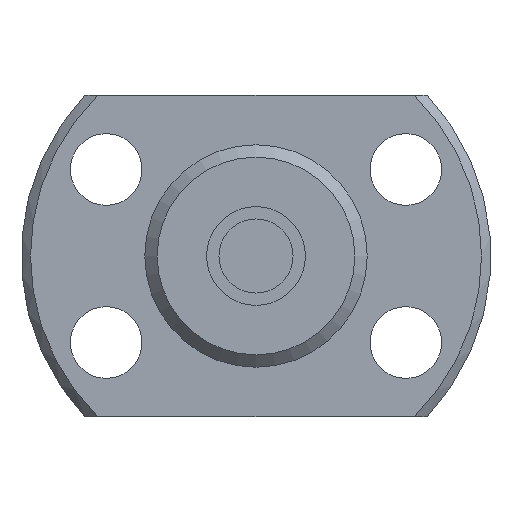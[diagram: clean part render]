
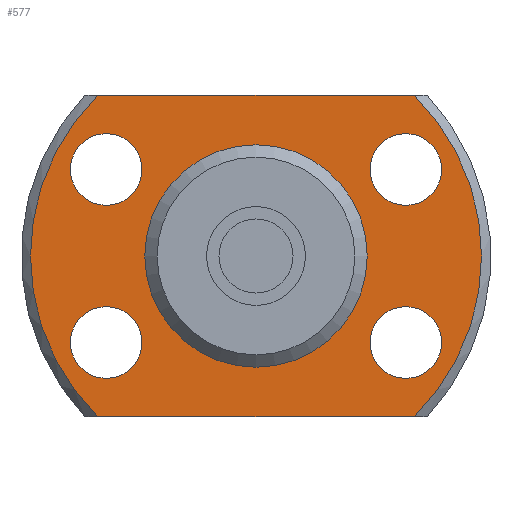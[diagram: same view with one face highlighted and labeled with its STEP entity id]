
A CAD part, left-side view. The second image highlights one B-rep face of the part: STEP entity #577.
In plain terms, the highlighted planar face has unit normal (-1, 0, 0) as drawn and (1, 0, 0) by its records, which use the part's own axes.
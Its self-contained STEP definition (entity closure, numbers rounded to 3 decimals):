
#72=LINE('',#1021,#88);
#73=LINE('',#1023,#89);
#88=VECTOR('',#844,1000.);
#89=VECTOR('',#845,1000.);
#177=ORIENTED_EDGE('',*,*,#273,.T.);
#178=ORIENTED_EDGE('',*,*,#251,.T.);
#179=ORIENTED_EDGE('',*,*,#274,.T.);
#180=ORIENTED_EDGE('',*,*,#275,.T.);
#181=ORIENTED_EDGE('',*,*,#276,.F.);
#182=ORIENTED_EDGE('',*,*,#277,.F.);
#183=ORIENTED_EDGE('',*,*,#278,.F.);
#184=ORIENTED_EDGE('',*,*,#279,.F.);
#185=ORIENTED_EDGE('',*,*,#272,.F.);
#251=EDGE_CURVE('',#310,#312,#359,.T.);
#272=EDGE_CURVE('',#331,#331,#374,.T.);
#273=EDGE_CURVE('',#332,#310,#72,.T.);
#274=EDGE_CURVE('',#312,#333,#73,.T.);
#275=EDGE_CURVE('',#333,#332,#375,.T.);
#276=EDGE_CURVE('',#334,#334,#376,.T.);
#277=EDGE_CURVE('',#335,#335,#377,.T.);
#278=EDGE_CURVE('',#336,#336,#378,.T.);
#279=EDGE_CURVE('',#337,#337,#379,.T.);
#310=VERTEX_POINT('',#956);
#312=VERTEX_POINT('',#963);
#331=VERTEX_POINT('',#1019);
#332=VERTEX_POINT('',#1022);
#333=VERTEX_POINT('',#1024);
#334=VERTEX_POINT('',#1027);
#335=VERTEX_POINT('',#1029);
#336=VERTEX_POINT('',#1031);
#337=VERTEX_POINT('',#1033);
#359=CIRCLE('',#654,9.125);
#374=CIRCLE('',#678,4.3);
#375=CIRCLE('',#680,9.125);
#376=CIRCLE('',#681,1.45);
#377=CIRCLE('',#682,1.45);
#378=CIRCLE('',#683,1.45);
#379=CIRCLE('',#684,1.45);
#436=EDGE_LOOP('',(#177,#178,#179,#180));
#437=EDGE_LOOP('',(#181));
#438=EDGE_LOOP('',(#182));
#439=EDGE_LOOP('',(#183));
#440=EDGE_LOOP('',(#184));
#441=EDGE_LOOP('',(#185));
#510=FACE_BOUND('',#436,.T.);
#511=FACE_BOUND('',#437,.T.);
#512=FACE_BOUND('',#438,.T.);
#513=FACE_BOUND('',#439,.T.);
#514=FACE_BOUND('',#440,.T.);
#515=FACE_BOUND('',#441,.T.);
#544=PLANE('',#679);
#577=ADVANCED_FACE('',(#510,#511,#512,#513,#514,#515),#544,.T.);
#654=AXIS2_PLACEMENT_3D('',#964,#788,#789);
#678=AXIS2_PLACEMENT_3D('',#1018,#840,#841);
#679=AXIS2_PLACEMENT_3D('',#1020,#842,#843);
#680=AXIS2_PLACEMENT_3D('',#1025,#846,#847);
#681=AXIS2_PLACEMENT_3D('',#1026,#848,#849);
#682=AXIS2_PLACEMENT_3D('',#1028,#850,#851);
#683=AXIS2_PLACEMENT_3D('',#1030,#852,#853);
#684=AXIS2_PLACEMENT_3D('',#1032,#854,#855);
#788=DIRECTION('',(1.,0.,0.));
#789=DIRECTION('',(0.,0.,-1.));
#840=DIRECTION('',(1.,0.,0.));
#841=DIRECTION('',(0.,0.,-1.));
#842=DIRECTION('',(1.,0.,0.));
#843=DIRECTION('',(0.,0.,-1.));
#844=DIRECTION('',(0.,-1.,0.));
#845=DIRECTION('',(0.,1.,0.));
#846=DIRECTION('',(1.,0.,0.));
#847=DIRECTION('',(0.,0.,-1.));
#848=DIRECTION('',(1.,0.,0.));
#849=DIRECTION('',(0.,0.,-1.));
#850=DIRECTION('',(1.,0.,0.));
#851=DIRECTION('',(0.,0.,-1.));
#852=DIRECTION('',(1.,0.,0.));
#853=DIRECTION('',(0.,0.,-1.));
#854=DIRECTION('',(1.,0.,0.));
#855=DIRECTION('',(0.,0.,-1.));
#956=CARTESIAN_POINT('',(3.,-6.404,6.5));
#963=CARTESIAN_POINT('',(3.,-6.404,-6.5));
#964=CARTESIAN_POINT('',(3.,0.,0.));
#1018=CARTESIAN_POINT('',(3.,0.,0.));
#1019=CARTESIAN_POINT('',(3.,0.,-4.3));
#1020=CARTESIAN_POINT('',(3.,4.3,0.));
#1021=CARTESIAN_POINT('',(3.,9.5,6.5));
#1022=CARTESIAN_POINT('',(3.,6.404,6.5));
#1023=CARTESIAN_POINT('',(3.,-9.5,-6.5));
#1024=CARTESIAN_POINT('',(3.,6.404,-6.5));
#1025=CARTESIAN_POINT('',(3.,0.,0.));
#1026=CARTESIAN_POINT('',(3.,6.062,3.5));
#1027=CARTESIAN_POINT('',(3.,6.062,2.05));
#1028=CARTESIAN_POINT('',(3.,-6.062,3.5));
#1029=CARTESIAN_POINT('',(3.,-6.062,2.05));
#1030=CARTESIAN_POINT('',(3.,-6.062,-3.5));
#1031=CARTESIAN_POINT('',(3.,-6.062,-4.95));
#1032=CARTESIAN_POINT('',(3.,6.062,-3.5));
#1033=CARTESIAN_POINT('',(3.,6.062,-4.95));
